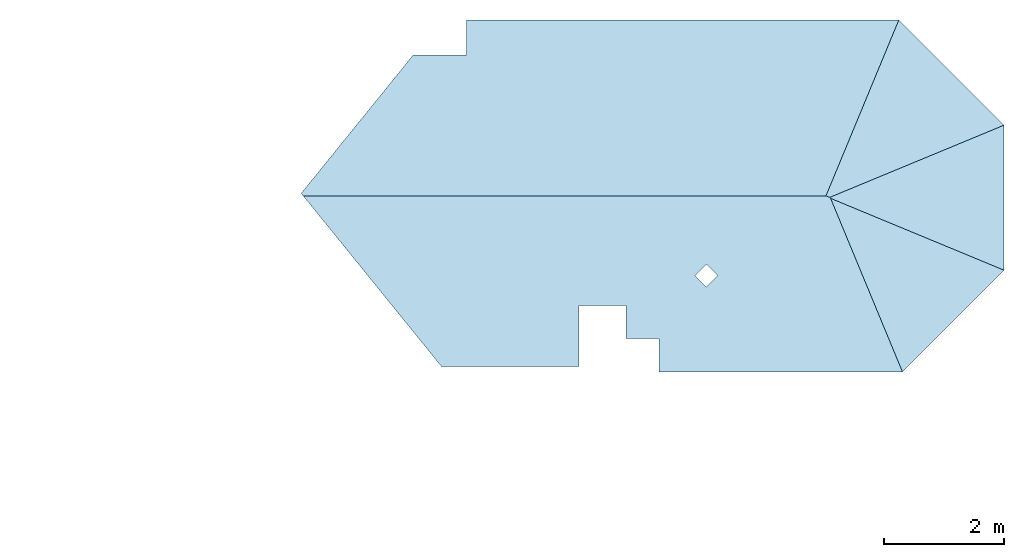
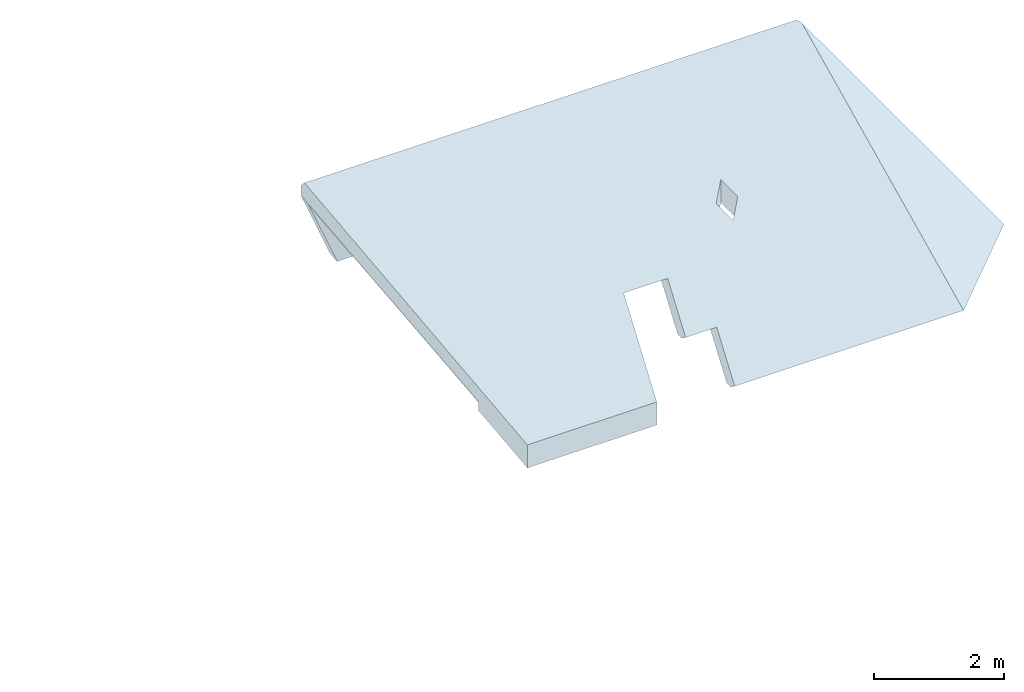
# Not in any storey, part 2 of 2: 1 roof.
"""IFC2X3 model written with IfcOpenShell, lengths in metres."""

from ifc_helpers import new_model, entity, si_unit, converted_unit, derived_unit, direction, frame, origin, place, context, subcontext, project, faceted_brep, material, layer, layer_set, element, save


model = new_model("IFC2X3")

# Units and contexts
model_context = context("Model", 3, precision=1e-05, world=origin(), true_north=direction((6.12303176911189e-17, 1.0)))
plan_context = context("Plan", 3, precision=1e-05, world=origin(), true_north=direction((6.12303176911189e-17, 1.0)))
body_context = subcontext(model_context, "Body", "Model", "MODEL_VIEW")
ifc_project = project(units=[si_unit("LENGTHUNIT", "METRE"), si_unit("AREAUNIT", "SQUARE_METRE"), si_unit("VOLUMEUNIT", "CUBIC_METRE"), converted_unit("PLANEANGLEUNIT", "DEGREE", entity("IfcRatioMeasure", 0.0174532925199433), si_unit("PLANEANGLEUNIT", "RADIAN"), dimensions=[0, 0, 0, 0, 0, 0, 0]), si_unit("MASSUNIT", "GRAM", prefix="KILO"), derived_unit("MASSDENSITYUNIT", [(si_unit("MASSUNIT", "GRAM", prefix="KILO"), 1), (si_unit("LENGTHUNIT", "METRE"), -3)]), derived_unit("MOMENTOFINERTIAUNIT", [(si_unit("LENGTHUNIT", "METRE"), 4)]), si_unit("TIMEUNIT", "SECOND"), si_unit("FREQUENCYUNIT", "HERTZ"), si_unit("THERMODYNAMICTEMPERATUREUNIT", "DEGREE_CELSIUS"), derived_unit("THERMALTRANSMITTANCEUNIT", [(si_unit("MASSUNIT", "GRAM", prefix="KILO"), 1), (si_unit("THERMODYNAMICTEMPERATUREUNIT", "KELVIN"), -1), (si_unit("TIMEUNIT", "SECOND"), -3)]), derived_unit("VOLUMETRICFLOWRATEUNIT", [(si_unit("LENGTHUNIT", "METRE"), 3), (si_unit("TIMEUNIT", "SECOND"), -1)]), derived_unit("MASSFLOWRATEUNIT", [(si_unit("MASSUNIT", "GRAM", prefix="KILO"), 1), (si_unit("TIMEUNIT", "SECOND"), -1)]), derived_unit("ROTATIONALFREQUENCYUNIT", [(si_unit("TIMEUNIT", "SECOND"), -1)]), si_unit("ELECTRICCURRENTUNIT", "AMPERE"), si_unit("ELECTRICVOLTAGEUNIT", "VOLT"), si_unit("POWERUNIT", "WATT"), si_unit("FORCEUNIT", "NEWTON", prefix="KILO"), si_unit("ILLUMINANCEUNIT", "LUX"), si_unit("LUMINOUSFLUXUNIT", "LUMEN"), si_unit("LUMINOUSINTENSITYUNIT", "CANDELA"), derived_unit("USERDEFINED", [(si_unit("MASSUNIT", "GRAM", prefix="KILO"), -1), (si_unit("LENGTHUNIT", "METRE"), -2), (si_unit("TIMEUNIT", "SECOND"), 3), (si_unit("LUMINOUSFLUXUNIT", "LUMEN"), 1)]), derived_unit("SOUNDPOWERUNIT", [(si_unit("MASSUNIT", "GRAM", prefix="KILO"), 1), (si_unit("LENGTHUNIT", "METRE"), 2), (si_unit("TIMEUNIT", "SECOND"), -3)]), derived_unit("SOUNDPRESSUREUNIT", [(si_unit("MASSUNIT", "GRAM", prefix="KILO"), 1), (si_unit("LENGTHUNIT", "METRE"), -1), (si_unit("TIMEUNIT", "SECOND"), -2)]), derived_unit("LINEARVELOCITYUNIT", [(si_unit("LENGTHUNIT", "METRE"), 1), (si_unit("TIMEUNIT", "SECOND"), -1)]), si_unit("PRESSUREUNIT", "PASCAL"), derived_unit("USERDEFINED", [(si_unit("LENGTHUNIT", "METRE"), -2), (si_unit("MASSUNIT", "GRAM", prefix="KILO"), 1), (si_unit("TIMEUNIT", "SECOND"), -2)]), derived_unit("LINEARFORCEUNIT", [(si_unit("MASSUNIT", "GRAM", prefix="KILO"), 1), (si_unit("LENGTHUNIT", "METRE"), 1), (si_unit("TIMEUNIT", "SECOND"), -2), (si_unit("LENGTHUNIT", "METRE"), -1)]), derived_unit("PLANARFORCEUNIT", [(si_unit("MASSUNIT", "GRAM", prefix="KILO"), 1), (si_unit("LENGTHUNIT", "METRE"), 1), (si_unit("TIMEUNIT", "SECOND"), -2), (si_unit("LENGTHUNIT", "METRE"), -2)])], contexts=[model_context, plan_context])

# Roof
ifc_material_1 = material(Name="Dachdeckung - Ziegeldach")
ifc_layer_1 = layer(ifc_material_1, 0.04)
ifc_material_2 = material(Name="Dachdeckung - Holz")
ifc_layer_2 = layer(ifc_material_2, 0.02)
ifc_material_3 = material(Name="Dämmung - weich")
ifc_layer_3 = layer(ifc_material_3, 0.15)
ifc_material_4 = material(Name="Luftschicht")
ifc_layer_4 = layer(ifc_material_4, 0.02)
ifc_layer_5 = layer(ifc_material_2, 0.02)
ifc_layer_set = layer_set([ifc_layer_1, ifc_layer_2, ifc_layer_3, ifc_layer_4, ifc_layer_5], Name="Basisdach:Schieferdach 250")
placement_1 = place(None, frame((-11.0823275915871, 23.8300534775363, 0.0)))
placement_2 = place(placement_1, origin())
placement_3 = place(placement_2, frame((0.0, 0.0, 5.33309351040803)))
roof_placement = place(placement_3, frame((15.2028569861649, 9.66607750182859, 0.359957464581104)))
element("IfcRoof", 1, at=roof_placement, material=ifc_layer_set, Name="Basisdach:Schieferdach 250", ObjectType="Basisdach:Schieferdach 250", ShapeType="NOTDEFINED", context=body_context, shape_type="Brep", body=[
    faceted_brep([(9.85624453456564, 5.61569141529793, 0.224523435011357), (8.74392757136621, 2.9303207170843, 3.98927430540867), (0.103278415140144, 2.9303207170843, 3.98927430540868), (1.83094171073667, 5.03077677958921, 1.04454351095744), (2.75760038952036, 5.03077677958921, 1.04454351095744), (2.75760038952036, 5.61569141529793, 0.224523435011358), (8.82137585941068, 2.8889939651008, 3.93133633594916), (9.91657472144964, 0.24495001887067, 0.224523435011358), (5.96272476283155, 0.24495001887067, 0.224523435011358), (5.96272476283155, 0.795591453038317, 0.996494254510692), (5.41166702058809, 0.795591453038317, 0.996494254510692), (5.41166702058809, 1.34630223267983, 1.76856229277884), (4.63209513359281, 1.34630223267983, 1.76856229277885), (4.63209513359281, 0.0847990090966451, 0.0), (2.33859248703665, 0.0847990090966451, 0.0), (1.83394874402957, 0.707982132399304, 0.873670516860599), (1.9311923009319, 0.707982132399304, 0.873670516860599), (8.80559089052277, 2.90477893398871, 3.95346604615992), (6.75082914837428, 1.79160137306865, 2.39284866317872), (6.55991031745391, 1.60068254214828, 2.12519033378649), (6.75082914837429, 1.40976371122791, 1.85753200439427), (6.94174797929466, 1.60068254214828, 2.1251903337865), (11.4654198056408, 1.79379510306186, 0.224523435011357), (11.4654198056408, 4.00651614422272, 0.224523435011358), (8.74392757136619, 2.9303207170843, 4.41978700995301), (9.95770615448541, 5.86064143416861, 0.311628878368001), (2.75760038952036, 5.86064143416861, 0.311628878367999), (2.75760038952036, 5.27572679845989, 1.13164895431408), (1.86493795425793, 5.27572679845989, 1.13164895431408), (0.0, 2.97272022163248, 4.36034509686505), (0.0343344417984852, 2.93032071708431, 4.419787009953), (10.0180363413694, 0.0, 0.311628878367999), (8.82137585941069, 2.88899396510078, 4.36184904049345), (8.80559089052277, 2.9047789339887, 4.38397875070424), (2.33859248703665, 0.0847990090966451, 0.430512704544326), (4.63209513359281, 0.0847990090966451, 0.430512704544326), (4.63209513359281, 1.10135221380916, 1.85566773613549), (5.41166702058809, 1.10135221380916, 1.85566773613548), (5.41166702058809, 0.550641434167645, 1.08359969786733), (5.96272476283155, 0.550641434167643, 1.08359969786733), (5.96272476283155, 0.0, 0.311628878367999), (6.55991031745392, 1.60068254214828, 2.55570303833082), (6.75082914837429, 1.79160137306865, 2.82336136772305), (6.94174797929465, 1.60068254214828, 2.55570303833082), (6.75082914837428, 1.40976371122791, 2.28804470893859), (11.7103698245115, 1.69233348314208, 0.311628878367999), (11.7103698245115, 4.10797776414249, 0.311628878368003), (9.90712350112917, 5.73852410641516, 0.224523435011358), (2.75760038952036, 5.73852410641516, 0.22452343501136), (5.96272476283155, 0.122117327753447, 0.224523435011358), (9.96745368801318, 0.122117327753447, 0.224523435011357), (11.5882524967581, 1.74291613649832, 0.224523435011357), (11.5882524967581, 4.05739511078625, 0.224523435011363), (2.75760038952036, 5.15360947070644, 1.04454351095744), (1.83094171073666, 5.15360947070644, 1.04454351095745), (1.80883208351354, 5.20644181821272, 1.0822284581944), (5.96272476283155, 0.672758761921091, 0.996494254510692), (0.0, 2.97272022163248, 4.16530810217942), (4.63209513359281, 1.22346954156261, 1.76856229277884), (5.41166702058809, 1.22346954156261, 1.76856229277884), (5.41166702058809, 0.672758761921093, 0.996494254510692), (1.83394874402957, 0.707982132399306, 1.03941814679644)], [[[0, 1, 2, 3, 4, 5]], [[6, 7, 8, 9, 10, 11, 12, 13, 14, 15, 16, 2, 1, 17], [18, 19, 20, 21]], [[7, 6, 22]], [[1, 0, 23, 17]], [[22, 6, 17, 23]], [[24, 25, 26, 27, 28, 29, 30]], [[31, 32, 33, 24, 30, 34, 35, 36, 37, 38, 39, 40], [41, 42, 43, 44]], [[32, 31, 45]], [[25, 24, 33, 46]], [[32, 45, 46, 33]], [[26, 25, 47, 48]], [[31, 40, 49, 50]], [[45, 31, 50, 51]], [[46, 45, 51, 52]], [[25, 46, 52, 47]], [[14, 13, 35, 34]], [[0, 5, 48, 47, 52, 51, 50, 49, 8, 7, 22, 23]], [[48, 5, 4, 53, 27, 26]], [[27, 53, 54, 55, 28]], [[53, 4, 3, 54]], [[40, 39, 56, 9, 8, 49]], [[29, 28, 55, 57]], [[35, 13, 12, 58, 36]], [[36, 58, 59, 37]], [[58, 12, 11, 59]], [[56, 39, 38, 60]], [[9, 56, 60, 10]], [[38, 37, 59, 11, 10, 60]], [[18, 42, 41, 19]], [[19, 41, 44, 20]], [[20, 44, 43, 21]], [[42, 18, 21, 43]], [[16, 61, 57, 55, 54, 3, 2]], [[14, 34, 30, 29, 57, 61, 15]], [[61, 16, 15]]]),
])

save(model, "model.ifc")
